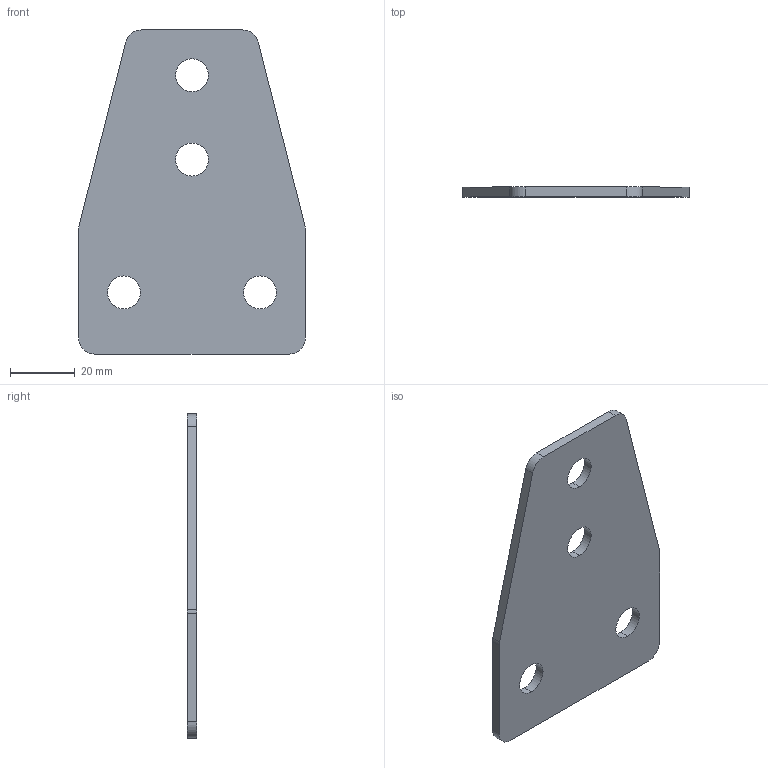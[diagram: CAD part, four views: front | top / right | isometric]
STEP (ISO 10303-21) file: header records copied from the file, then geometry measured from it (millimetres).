
FILE_DESCRIPTION (( 'STEP AP214' ), '1' );
FILE_NAME ('SNSD.30.52.40 Ò-ñîåäèíèòåëü 100õ70(C81).STEP', '2014-12-12T13:31:25', ( 'XTreme.ws' ), ( 'XTreme.ws' ), 'SwSTEP 2.0', 'SolidWorks 2014', '' );
FILE_SCHEMA (( 'AUTOMOTIVE_DESIGN' ));
Length unit declared in the file: millimetre
Products named in the file (1): SNSD.30.52.40 Ò-ñîåäèíèòåëü 100õ70(C81)
Bounding box: 70 x 3 x 100 mm (x, y, z)
Volume: 17133.2 mm3; surface area: 12725.3 mm2
Topology: 1 solids, 1 shells, 22 faces, 60 edges, 40 vertices
Faces by surface type: cylinder 14, plane 8
Entity records: 762 total; most frequent: DIRECTION 134, CARTESIAN_POINT 123, ORIENTED_EDGE 120, EDGE_CURVE 60, AXIS2_PLACEMENT_3D 51, VERTEX_POINT 40, VECTOR 32, LINE 32
